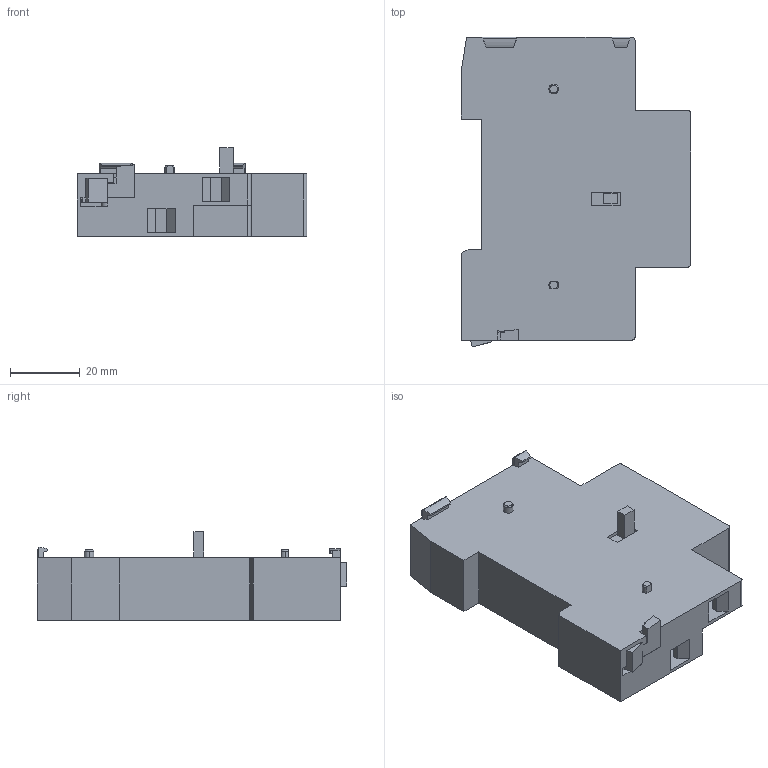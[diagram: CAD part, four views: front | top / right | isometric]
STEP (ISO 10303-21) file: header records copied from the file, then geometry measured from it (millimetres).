
FILE_DESCRIPTION (( 'STEP AP203' ), '1' );
FILE_NAME ('倰32.STEP', '2018-05-30T07:04:04', ( '' ), ( '' ), 'SwSTEP 2.0', 'SolidWorks 2018', '' );
FILE_SCHEMA (( 'CONFIG_CONTROL_DESIGN' ));
Length unit declared in the file: millimetre
Products named in the file (1): 倰32
Bounding box: 66 x 88.89 x 25.5 mm (x, y, z)
Volume: 80877.7 mm3; surface area: 18947.5 mm2
Topology: 5 solids, 5 shells, 370 faces, 1002 edges, 664 vertices
Faces by surface type: plane 265, cylinder 63, bspline 27, cone 9, torus 6
Entity records: 13498 total; most frequent: CARTESIAN_POINT 4236, ORIENTED_EDGE 2004, DIRECTION 1725, EDGE_CURVE 1002, LINE 755, VECTOR 755, VERTEX_POINT 664, AXIS2_PLACEMENT_3D 485
